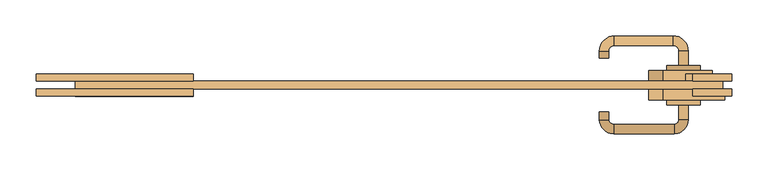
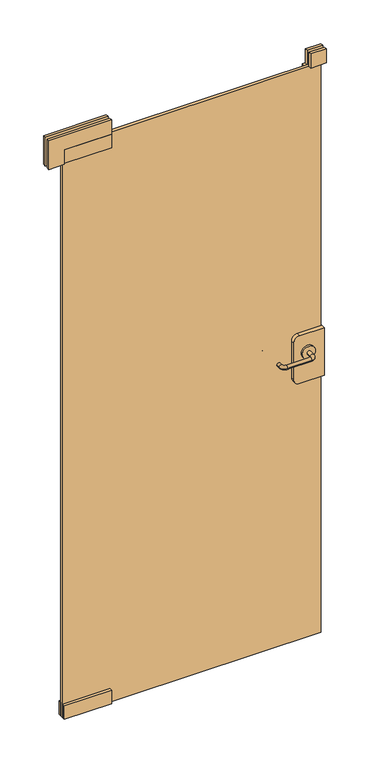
"""IFC4 building model written with IfcOpenShell, lengths in millimetres: door geometry, GLASSLINE_SLAGDÖRR GLAS GLAS : GLASSLINE_SLAGDÖRR GLAS GLAS."""

from ifc_helpers import new_model, si_unit, point, frame, frame_2d, origin, origin_with_axes, place, context, project, spatial, polyline, circle_curve, ellipse_curve, trimmed, segment, composite_curve, outline, extrude, source, transform, mapped, element, save
from ifc_brep_helpers import plane_surface, cylinder_surface, revolved_surface, advanced_brep


def door_efc99afd(model_context):
    return source(origin(), model_context, "Body", "SolidModel", [
        extrude(outline(polyline([(447.5, 12.5), (447.5, 1.5), (-449.5, 1.5), (-449.5, 12.5), (447.5, 12.5)])), origin_with_axes(), (0.0, 0.0, 1.0), 2090.000045),
        advanced_brep(
        [(277.0002823, -30.4999363, 1058.0000284), (290.0002823, -30.4999363, 1058.0000284), (277.0002823, -40.9999554, 1058.0000284), (290.0002823, -40.9999554, 1058.0000284), (296.5001266, -47.4997997, 1058.0000284), (296.5001266, -60.4997997, 1058.0000284), (380.5003891, -60.4997997, 1058.0000284), (380.5003891, -47.4997997, 1058.0000284), (387.0002335, -40.9999554, 1058.0000284), (400.0002335, -40.9999554, 1058.0000284), (400.0002335, -20.5, 1058.0000284), (387.0002335, -20.5, 1058.0000284)],
        [
            (0, 1, circle_curve(frame((283.5002823, -30.4999363, 1058.0000284), z_axis=(0.0, 1.0, 0.0), x_axis=(1.0, 0.0, 0.0)), 6.5)),
            (1, 0, circle_curve(frame((283.5002823, -30.4999363, 1058.0000284), z_axis=(0.0, 1.0, 0.0), x_axis=(1.0, 0.0, 0.0)), 6.5)),
            (0, 2),
            (2, 3, circle_curve(frame((283.5002823, -40.9999554, 1058.0000284), z_axis=(0.0, 1.0, 0.0), x_axis=(1.0, 0.0, 0.0)), 6.5)),
            (3, 1),
            (3, 2, circle_curve(frame((283.5002823, -40.9999554, 1058.0000284), z_axis=(0.0, 1.0, 0.0), x_axis=(1.0, 0.0, 0.0)), 6.5)),
            (4, 3, circle_curve(frame((296.5001266, -40.9999554, 1058.0000284), z_axis=(0.0, 0.0, -1.0), x_axis=(-1.0, 0.0, 0.0)), 6.4998444)),
            (2, 5, circle_curve(frame((296.5001266, -40.9999554, 1058.0000284), z_axis=(0.0, 0.0, 1.0), x_axis=(-1.0, 0.0, 0.0)), 19.4998444)),
            (5, 4, circle_curve(frame((296.5001266, -53.9997997, 1058.0000284), z_axis=(-1.0, 0.0, 0.0), x_axis=(0.0, 1.0, 0.0)), 6.5)),
            (4, 5, circle_curve(frame((296.5001266, -53.9997997, 1058.0000284), z_axis=(-1.0, 0.0, 0.0), x_axis=(0.0, 1.0, 0.0)), 6.5)),
            (5, 6),
            (6, 7, circle_curve(frame((380.5003891, -53.9997997, 1058.0000284), z_axis=(-1.0, 0.0, 0.0), x_axis=(0.0, 1.0, 0.0)), 6.5)),
            (7, 4),
            (7, 6, circle_curve(frame((380.5003891, -53.9997997, 1058.0000284), z_axis=(-1.0, 0.0, 0.0), x_axis=(0.0, 1.0, 0.0)), 6.5)),
            (8, 7, circle_curve(frame((380.5003891, -40.9999554, 1058.0000284), z_axis=(0.0, 0.0, -1.0), x_axis=(0.0, -1.0, 0.0)), 6.4998444)),
            (6, 9, circle_curve(frame((380.5003891, -40.9999554, 1058.0000284), z_axis=(0.0, 0.0, 1.0), x_axis=(0.0, -1.0, 0.0)), 19.4998444)),
            (9, 8, circle_curve(frame((393.5002335, -40.9999554, 1058.0000284), z_axis=(0.0, -1.0, 0.0), x_axis=(-1.0, 0.0, 0.0)), 6.5)),
            (8, 9, circle_curve(frame((393.5002335, -40.9999554, 1058.0000284), z_axis=(0.0, -1.0, 0.0), x_axis=(-1.0, 0.0, 0.0)), 6.5)),
            (10, 11, circle_curve(frame((393.5002335, -20.5, 1058.0000284), z_axis=(0.0, 1.0, 0.0), x_axis=(-1.0, 0.0, 0.0)), 6.5)),
            (11, 10, circle_curve(frame((393.5002335, -20.5, 1058.0000284), z_axis=(0.0, 1.0, 0.0), x_axis=(-1.0, 0.0, 0.0)), 6.5)),
            (9, 10),
            (11, 8),
        ],
        [
            plane_surface(frame((283.5001266, -30.4999363, 0.0), z_axis=(0.0, 1.0, 0.0), x_axis=(0.0, 0.0, 1.0))),
            cylinder_surface(frame((283.5002823, -30.4999363, 1058.0000284), z_axis=(0.0, 1.0, 0.0), x_axis=(1.0, 0.0, 0.0)), 6.5),
            revolved_surface(trimmed(ellipse_curve(frame((283.5002823, -40.9999554, 1058.0000284), z_axis=(0.0, 1.0, 0.0), x_axis=(1.0, 0.0, 0.0)), 6.5, 6.5), [point((277.0002823, -40.9999554, 1058.0000284))], [point((290.0002823, -40.9999554, 1058.0000284))], True, "CARTESIAN"), (296.5001266, -40.9999554, 0.0), (0.0, 0.0, 1.0)),
            revolved_surface(trimmed(ellipse_curve(frame((283.5002823, -40.9999554, 1058.0000284), z_axis=(0.0, 1.0, 0.0), x_axis=(1.0, 0.0, 0.0)), 6.5, 6.5), [point((290.0002823, -40.9999554, 1058.0000284))], [point((277.0002823, -40.9999554, 1058.0000284))], True, "CARTESIAN"), (296.5001266, -40.9999554, 0.0), (0.0, 0.0, 1.0)),
            cylinder_surface(frame((296.5001266, -53.9997997, 1058.0000284), z_axis=(-1.0, 0.0, 0.0), x_axis=(0.0, 1.0, 0.0)), 6.5),
            revolved_surface(trimmed(ellipse_curve(frame((380.5003891, -53.9997997, 1058.0000284), z_axis=(-1.0, 0.0, 0.0), x_axis=(0.0, 1.0, 0.0)), 6.5, 6.5), [point((380.5003891, -60.4997997, 1058.0000284))], [point((380.5003891, -47.4997997, 1058.0000284))], True, "CARTESIAN"), (380.5003891, -40.9999554, 0.0), (0.0, 0.0, 1.0)),
            revolved_surface(trimmed(ellipse_curve(frame((380.5003891, -53.9997997, 1058.0000284), z_axis=(-1.0, 0.0, 0.0), x_axis=(0.0, 1.0, 0.0)), 6.5, 6.5), [point((380.5003891, -47.4997997, 1058.0000284))], [point((380.5003891, -60.4997997, 1058.0000284))], True, "CARTESIAN"), (380.5003891, -40.9999554, 0.0), (0.0, 0.0, 1.0)),
            plane_surface(frame((393.5003891, -20.5, 0.0), z_axis=(0.0, 1.0, 0.0), x_axis=(0.0, 0.0, 1.0))),
            cylinder_surface(frame((393.5002335, -40.9999554, 1058.0000284), z_axis=(0.0, -1.0, 0.0), x_axis=(-1.0, 0.0, 0.0)), 6.5),
        ],
        [
            (0, [[1, 2]]),
            (1, [[-1, 3, 4, 5]]),
            (1, [[-2, -5, 6, -3]]),
            (2, [[7, -4, 8, 9]]),
            (3, [[-8, -6, -7, 10]]),
            (4, [[-9, 11, 12, 13]]),
            (4, [[-10, -13, 14, -11]]),
            (5, [[15, -12, 16, 17]]),
            (6, [[-16, -14, -15, 18]]),
            (7, [[19, 20]]),
            (8, [[-17, 21, -20, 22]]),
            (8, [[-18, -22, -19, -21]]),
        ],
    ),
        extrude(outline(composite_curve([segment(trimmed(circle_curve(frame_2d((1058.0000284, 393.500148)), 23.0), [point((1058.0000284, 416.500148))], [point((1058.0000284, 370.500148))], False, "CARTESIAN"), True, "CONTINUOUS"), segment(trimmed(circle_curve(frame_2d((1058.0000284, 393.500148)), 23.0), [point((1058.0000284, 370.500148))], [point((1058.0000284, 416.500148))], False, "CARTESIAN"), True, "CONTINUOUS")], self_intersect=False)), frame((0.0, -20.5, 0.0), z_axis=(0.0, 1.0, 0.0), x_axis=(0.0, 0.0, 1.0)), (0.0, 0.0, 1.0), 7.0),
        extrude(outline(composite_curve([segment(polyline([(1125.0000086, 450.5003983), (1125.0000086, 365.500412)]), True, "CONTINUOUS"), segment(trimmed(circle_curve(frame_2d((1105.0000086, 365.500412)), 20.0), [point((1125.0000086, 365.500412))], [point((1105.0000086, 345.500412))], False, "CARTESIAN"), True, "CONTINUOUS"), segment(polyline([(1105.0000086, 345.500412), (970.0000072, 345.500412)]), True, "CONTINUOUS"), segment(trimmed(circle_curve(frame_2d((970.0000072, 365.500412)), 20.0), [point((970.0000072, 345.500412))], [point((950.0000072, 365.500412))], False, "CARTESIAN"), True, "CONTINUOUS"), segment(polyline([(950.0000072, 365.500412), (950.0000072, 450.5003983), (1125.0000086, 450.5003983)]), True, "CONTINUOUS")], self_intersect=False)), frame((0.0, -13.5, 0.0), z_axis=(0.0, 1.0, 0.0), x_axis=(0.0, 0.0, 1.0)), (0.0, 0.0, 1.0), 15.0),
        advanced_brep(
        [(399.9999924, 34.5, 1058.0000284), (386.9999924, 34.5, 1058.0000284), (399.9999924, 54.5643658, 1058.0000284), (386.9999924, 54.5643658, 1058.0000284), (379.500148, 62.0642101, 1058.0000284), (379.500148, 75.0642101, 1058.0000284), (297.5001266, 75.0642101, 1058.0000284), (297.5001266, 62.0642101, 1058.0000284), (290.0002823, 54.5643658, 1058.0000284), (277.0002823, 54.5643658, 1058.0000284), (277.0002823, 44.4999916, 1058.0000284), (290.0002823, 44.4999916, 1058.0000284)],
        [
            (0, 1, circle_curve(frame((393.4999924, 34.5, 1058.0000284), z_axis=(0.0, -1.0, 0.0), x_axis=(-1.0, 0.0, 0.0)), 6.5)),
            (1, 0, circle_curve(frame((393.4999924, 34.5, 1058.0000284), z_axis=(0.0, -1.0, 0.0), x_axis=(-1.0, 0.0, 0.0)), 6.5)),
            (0, 2),
            (2, 3, circle_curve(frame((393.4999924, 54.5643658, 1058.0000284), z_axis=(0.0, -1.0, 0.0), x_axis=(-1.0, 0.0, 0.0)), 6.5)),
            (3, 1),
            (3, 2, circle_curve(frame((393.4999924, 54.5643658, 1058.0000284), z_axis=(0.0, -1.0, 0.0), x_axis=(-1.0, 0.0, 0.0)), 6.5)),
            (4, 3, circle_curve(frame((379.500148, 54.5643658, 1058.0000284), z_axis=(0.0, 0.0, -1.0), x_axis=(1.0, 0.0, 0.0)), 7.4998444)),
            (2, 5, circle_curve(frame((379.500148, 54.5643658, 1058.0000284), z_axis=(0.0, 0.0, 1.0), x_axis=(1.0, 0.0, 0.0)), 20.4998444)),
            (5, 4, circle_curve(frame((379.500148, 68.5642101, 1058.0000284), z_axis=(1.0, 0.0, 0.0), x_axis=(0.0, -1.0, 0.0)), 6.5)),
            (4, 5, circle_curve(frame((379.500148, 68.5642101, 1058.0000284), z_axis=(1.0, 0.0, 0.0), x_axis=(0.0, -1.0, 0.0)), 6.5)),
            (5, 6),
            (6, 7, circle_curve(frame((297.5001266, 68.5642101, 1058.0000284), z_axis=(1.0, 0.0, 0.0), x_axis=(0.0, -1.0, 0.0)), 6.5)),
            (7, 4),
            (7, 6, circle_curve(frame((297.5001266, 68.5642101, 1058.0000284), z_axis=(1.0, 0.0, 0.0), x_axis=(0.0, -1.0, 0.0)), 6.5)),
            (8, 7, circle_curve(frame((297.5001266, 54.5643658, 1058.0000284), z_axis=(0.0, 0.0, -1.0), x_axis=(0.0, 1.0, 0.0)), 7.4998444)),
            (6, 9, circle_curve(frame((297.5001266, 54.5643658, 1058.0000284), z_axis=(0.0, 0.0, 1.0), x_axis=(0.0, 1.0, 0.0)), 20.4998444)),
            (9, 8, circle_curve(frame((283.5002823, 54.5643658, 1058.0000284), z_axis=(0.0, 1.0, 0.0), x_axis=(1.0, 0.0, 0.0)), 6.5)),
            (8, 9, circle_curve(frame((283.5002823, 54.5643658, 1058.0000284), z_axis=(0.0, 1.0, 0.0), x_axis=(1.0, 0.0, 0.0)), 6.5)),
            (10, 11, circle_curve(frame((283.5002823, 44.4999916, 1058.0000284), z_axis=(0.0, -1.0, 0.0), x_axis=(1.0, 0.0, 0.0)), 6.5)),
            (11, 10, circle_curve(frame((283.5002823, 44.4999916, 1058.0000284), z_axis=(0.0, -1.0, 0.0), x_axis=(1.0, 0.0, 0.0)), 6.5)),
            (9, 10),
            (11, 8),
        ],
        [
            plane_surface(frame((393.500148, 34.5, 0.0), z_axis=(0.0, -1.0, 0.0), x_axis=(0.0, 0.0, 1.0))),
            cylinder_surface(frame((393.4999924, 34.5, 1058.0000284), z_axis=(0.0, -1.0, 0.0), x_axis=(-1.0, 0.0, 0.0)), 6.5),
            revolved_surface(trimmed(ellipse_curve(frame((393.4999924, 54.5643658, 1058.0000284), z_axis=(0.0, -1.0, 0.0), x_axis=(-1.0, 0.0, 0.0)), 6.5, 6.5), [point((399.9999924, 54.5643658, 1058.0000284))], [point((386.9999924, 54.5643658, 1058.0000284))], True, "CARTESIAN"), (379.500148, 54.5643658, 0.0), (0.0, 0.0, 1.0)),
            revolved_surface(trimmed(ellipse_curve(frame((393.4999924, 54.5643658, 1058.0000284), z_axis=(0.0, -1.0, 0.0), x_axis=(-1.0, 0.0, 0.0)), 6.5, 6.5), [point((386.9999924, 54.5643658, 1058.0000284))], [point((399.9999924, 54.5643658, 1058.0000284))], True, "CARTESIAN"), (379.500148, 54.5643658, 0.0), (0.0, 0.0, 1.0)),
            cylinder_surface(frame((379.500148, 68.5642101, 1058.0000284), z_axis=(1.0, 0.0, 0.0), x_axis=(0.0, -1.0, 0.0)), 6.5),
            revolved_surface(trimmed(ellipse_curve(frame((297.5001266, 68.5642101, 1058.0000284), z_axis=(1.0, 0.0, 0.0), x_axis=(0.0, -1.0, 0.0)), 6.5, 6.5), [point((297.5001266, 75.0642101, 1058.0000284))], [point((297.5001266, 62.0642101, 1058.0000284))], True, "CARTESIAN"), (297.5001266, 54.5643658, 0.0), (0.0, 0.0, 1.0)),
            revolved_surface(trimmed(ellipse_curve(frame((297.5001266, 68.5642101, 1058.0000284), z_axis=(1.0, 0.0, 0.0), x_axis=(0.0, -1.0, 0.0)), 6.5, 6.5), [point((297.5001266, 62.0642101, 1058.0000284))], [point((297.5001266, 75.0642101, 1058.0000284))], True, "CARTESIAN"), (297.5001266, 54.5643658, 0.0), (0.0, 0.0, 1.0)),
            plane_surface(frame((283.5001266, 44.4999916, 0.0), z_axis=(0.0, -1.0, 0.0), x_axis=(0.0, 0.0, 1.0))),
            cylinder_surface(frame((283.5002823, 54.5643658, 1058.0000284), z_axis=(0.0, 1.0, 0.0), x_axis=(1.0, 0.0, 0.0)), 6.5),
        ],
        [
            (0, [[1, 2]]),
            (1, [[-1, 3, 4, 5]]),
            (1, [[-2, -5, 6, -3]]),
            (2, [[7, -4, 8, 9]]),
            (3, [[-8, -6, -7, 10]]),
            (4, [[-9, 11, 12, 13]]),
            (4, [[-10, -13, 14, -11]]),
            (5, [[15, -12, 16, 17]]),
            (6, [[-16, -14, -15, 18]]),
            (7, [[19, 20]]),
            (8, [[-17, 21, -20, 22]]),
            (8, [[-18, -22, -19, -21]]),
        ],
    ),
        extrude(outline(composite_curve([segment(trimmed(circle_curve(frame_2d((1058.0000284, 393.500148)), 23.0), [point((1058.0000284, 370.500148))], [point((1058.0000284, 416.500148))], False, "CARTESIAN"), True, "CONTINUOUS"), segment(trimmed(circle_curve(frame_2d((1058.0000284, 393.500148)), 23.0), [point((1058.0000284, 416.500148))], [point((1058.0000284, 370.500148))], False, "CARTESIAN"), True, "CONTINUOUS")], self_intersect=False)), frame((0.0, 27.5, 0.0), z_axis=(0.0, 1.0, 0.0), x_axis=(0.0, 0.0, 1.0)), (0.0, 0.0, 1.0), 7.0),
        extrude(outline(composite_curve([segment(polyline([(1125.0000086, 433.5002731), (1125.0000086, 365.500412)]), True, "CONTINUOUS"), segment(trimmed(circle_curve(frame_2d((1105.0000086, 365.500412)), 20.0), [point((1125.0000086, 365.500412))], [point((1105.0000086, 345.500412))], False, "CARTESIAN"), True, "CONTINUOUS"), segment(polyline([(1105.0000086, 345.500412), (970.0000072, 345.500412)]), True, "CONTINUOUS"), segment(trimmed(circle_curve(frame_2d((970.0000072, 365.500412)), 20.0), [point((970.0000072, 345.500412))], [point((950.0000072, 365.500412))], False, "CARTESIAN"), True, "CONTINUOUS"), segment(polyline([(950.0000072, 365.500412), (950.0000072, 433.5002731), (1125.0000086, 433.5002731)]), True, "CONTINUOUS")], self_intersect=False)), frame((0.0, 12.5, 0.0), z_axis=(0.0, 1.0, 0.0), x_axis=(0.0, 0.0, 1.0)), (0.0, 0.0, 1.0), 15.0),
        extrude(outline(polyline([(406.500206, 1.5), (460.5003983, 1.5), (460.5003983, -8.5), (406.500206, -8.5), (406.500206, 1.5)])), frame((0.0, 0.0, 2090.000045), z_axis=(0.0, 0.0, 1.0), x_axis=(1.0, 0.0, 0.0)), (0.0, 0.0, 1.0), 52.0000237),
        extrude(outline(polyline([(406.500206, 22.5), (460.5003983, 22.5), (460.5003983, 12.5), (406.500206, 12.5), (406.500206, 22.5)])), frame((0.0, 0.0, 2090.000045), z_axis=(0.0, 0.0, 1.0), x_axis=(1.0, 0.0, 0.0)), (0.0, 0.0, 1.0), 52.0000237),
        extrude(outline(polyline([(450.5003983, 22.499971), (450.5003983, 12.5), (396.500206, 12.5), (396.500206, 22.499971), (450.5003983, 22.499971)])), frame((0.0, 0.0, 2035.9999981), z_axis=(0.0, 0.0, 1.0), x_axis=(1.0, 0.0, 0.0)), (0.0, 0.0, 1.0), 54.0000469),
        extrude(outline(polyline([(2090.000045, -285.5000259), (2142.0000687, -285.5000259), (2142.0000687, -503.4995102), (2035.9999981, -503.4995102), (2035.9999981, -449.5), (2090.000045, -449.5), (2090.000045, -285.5000259)])), frame((0.0, -8.499971, 0.0), z_axis=(0.0, 1.0, 0.0), x_axis=(0.0, 0.0, 1.0)), (0.0, 0.0, 1.0), 9.999971),
        extrude(outline(polyline([(2090.000045, -285.5000259), (2142.0000687, -285.5000259), (2142.0000687, -503.4995102), (2035.9999981, -503.4995102), (2035.9999981, -449.5), (2090.000045, -449.5), (2090.000045, -285.5000259)])), frame((0.0, 12.5, 0.0), z_axis=(0.0, 1.0, 0.0), x_axis=(0.0, 0.0, 1.0)), (0.0, 0.0, 1.0), 9.999971),
        extrude(outline(polyline([(-285.5000259, 1.5), (-285.5000259, -8.499971), (-449.5, -8.499971), (-449.5, 1.5), (-285.5000259, 1.5)])), origin_with_axes(), (0.0, 0.0, 1.0), 50.0),
        extrude(outline(polyline([(-285.5000259, 22.5), (-285.5000259, 12.500029), (-449.4997986, 12.500029), (-449.4997986, 22.5), (-285.5000259, 22.5)])), origin_with_axes(), (0.0, 0.0, 1.0), 50.0),
        extrude(outline(polyline([(-285.5000259, 1.5), (-285.5000259, -8.499971), (-449.5, -8.499971), (-449.5, 1.5), (-285.5000259, 1.5)])), frame((0.0, 0.0, 2040.000045), z_axis=(0.0, 0.0, 1.0), x_axis=(1.0, 0.0, 0.0)), (0.0, 0.0, 1.0), 50.0),
        extrude(outline(polyline([(-285.5000259, 22.499971), (-285.5000259, 12.5), (-449.5, 12.5), (-449.5, 22.499971), (-285.5000259, 22.499971)])), frame((0.0, 0.0, 2040.000045), z_axis=(0.0, 0.0, 1.0), x_axis=(1.0, 0.0, 0.0)), (0.0, 0.0, 1.0), 50.0),
    ])


if __name__ == "__main__":
    model = new_model("IFC4")
    model_context = context("Model", 3, world=origin())
    ifc_project = project(units=[si_unit("LENGTHUNIT", "METRE", prefix="MILLI")], contexts=[model_context])
    site = spatial("IfcSite", under=ifc_project)
    building = spatial("IfcBuilding", under=site)
    placement = place(None, origin())
    door_shape = door_efc99afd(model_context)
    element("IfcDoor", 1, ObjectType="GLASSLINE_SLAGDÖRR GLAS GLAS : GLASSLINE_SLAGDÖRR GLAS GLAS", at=placement, inside=building, context=model_context, shape_type="MappedRepresentation", body=[
        mapped(door_shape, transform((0.0, 0.0, 0.0), x_axis=(1.0, 0.0, 0.0), y_axis=(0.0, 1.0, 0.0), z_axis=(0.0, 0.0, 1.0))),
    ])
    save(model, "model.ifc")
